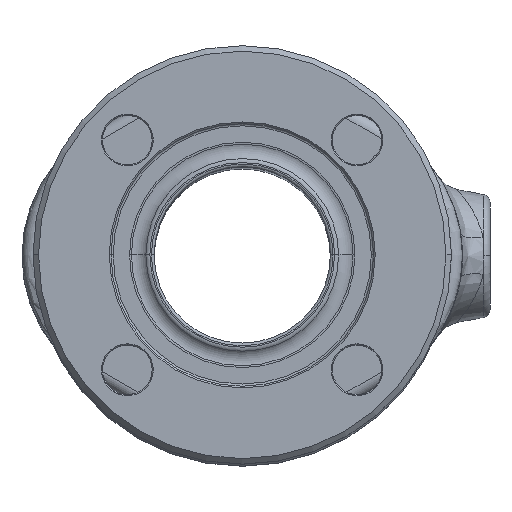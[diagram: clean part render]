
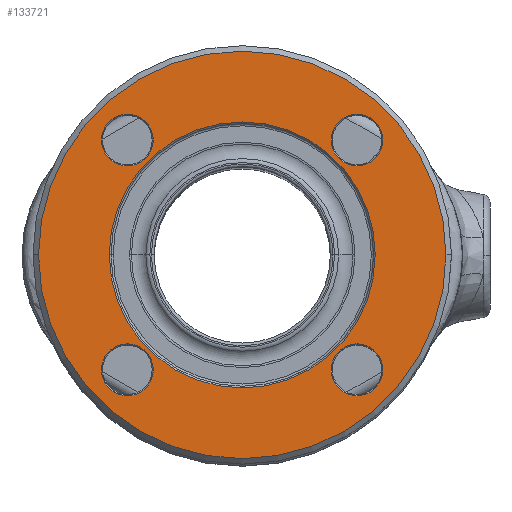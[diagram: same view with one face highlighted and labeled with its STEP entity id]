
A CAD part, top view. The second image highlights one B-rep face of the part: STEP entity #133721.
In plain terms, the highlighted planar face has unit normal (0, 0, 1).
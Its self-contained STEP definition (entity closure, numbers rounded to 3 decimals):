
#3784 = DIRECTION ( 'NONE',  ( -1., 0., 0. ) ) ;
#4360 = DIRECTION ( 'NONE',  ( -1., 0., 0. ) ) ;
#4615 = EDGE_CURVE ( 'NONE', #33406, #122370, #110155, .T. ) ;
#7628 = CIRCLE ( 'NONE', #45564, 4.7 ) ;
#9088 = PLANE ( 'NONE',  #68167 ) ;
#9933 = DIRECTION ( 'NONE',  ( -1., 0., 0. ) ) ;
#12340 = FACE_BOUND ( 'NONE', #105341, .T. ) ;
#12402 = AXIS2_PLACEMENT_3D ( 'NONE', #145805, #75135, #4360 ) ;
#12552 = VERTEX_POINT ( 'NONE', #41041 ) ;
#16437 = AXIS2_PLACEMENT_3D ( 'NONE', #120376, #49668, #132277 ) ;
#19275 = VERTEX_POINT ( 'NONE', #119020 ) ;
#19307 = VERTEX_POINT ( 'NONE', #85867 ) ;
#21177 = CARTESIAN_POINT ( 'NONE',  ( 20.86, 20.86, 113. ) ) ;
#26039 = CARTESIAN_POINT ( 'NONE',  ( -16.16, -20.86, 113. ) ) ;
#27621 = EDGE_LOOP ( 'NONE', ( #44890, #118750 ) ) ;
#27945 = EDGE_CURVE ( 'NONE', #152471, #46884, #141781, .T. ) ;
#33035 = DIRECTION ( 'NONE',  ( -1., 0., 0. ) ) ;
#33295 = DIRECTION ( 'NONE',  ( 0., 0., -1. ) ) ;
#33406 = VERTEX_POINT ( 'NONE', #126464 ) ;
#33785 = EDGE_CURVE ( 'NONE', #98992, #118346, #98003, .T. ) ;
#35644 = ORIENTED_EDGE ( 'NONE', *, *, #55051, .T. ) ;
#38944 = CARTESIAN_POINT ( 'NONE',  ( 0., 0., 113. ) ) ;
#40030 = FACE_BOUND ( 'NONE', #53167, .T. ) ;
#41041 = CARTESIAN_POINT ( 'NONE',  ( 16.16, -20.86, 113. ) ) ;
#43018 = EDGE_CURVE ( 'NONE', #122370, #33406, #53816, .T. ) ;
#43562 = CARTESIAN_POINT ( 'NONE',  ( 16.16, 20.86, 113. ) ) ;
#43706 = FACE_BOUND ( 'NONE', #107299, .T. ) ;
#44364 = CARTESIAN_POINT ( 'NONE',  ( 20.86, -20.86, 113. ) ) ;
#44890 = ORIENTED_EDGE ( 'NONE', *, *, #137772, .T. ) ;
#45564 = AXIS2_PLACEMENT_3D ( 'NONE', #21177, #103761, #33035 ) ;
#46884 = VERTEX_POINT ( 'NONE', #132072 ) ;
#49286 = VERTEX_POINT ( 'NONE', #100225 ) ;
#49668 = DIRECTION ( 'NONE',  ( 0., 0., -1. ) ) ;
#50138 = ORIENTED_EDGE ( 'NONE', *, *, #50817, .T. ) ;
#50169 = EDGE_CURVE ( 'NONE', #118346, #98992, #90919, .T. ) ;
#50817 = EDGE_CURVE ( 'NONE', #19307, #129043, #7628, .T. ) ;
#50877 = DIRECTION ( 'NONE',  ( -1., 0., 0. ) ) ;
#51307 = EDGE_CURVE ( 'NONE', #129043, #19307, #59257, .T. ) ;
#53167 = EDGE_LOOP ( 'NONE', ( #58392, #35644 ) ) ;
#53816 = CIRCLE ( 'NONE', #12402, 37. ) ;
#54001 = CARTESIAN_POINT ( 'NONE',  ( -20.86, -20.86, 113. ) ) ;
#55051 = EDGE_CURVE ( 'NONE', #125587, #19275, #65492, .T. ) ;
#55324 = CARTESIAN_POINT ( 'NONE',  ( 20.86, -20.86, 113. ) ) ;
#56302 = DIRECTION ( 'NONE',  ( -1., 0., 0. ) ) ;
#58228 = ORIENTED_EDGE ( 'NONE', *, *, #33785, .T. ) ;
#58392 = ORIENTED_EDGE ( 'NONE', *, *, #145959, .T. ) ;
#59257 = CIRCLE ( 'NONE', #145508, 4.7 ) ;
#59870 = DIRECTION ( 'NONE',  ( 0., 0., -1. ) ) ;
#60025 = CARTESIAN_POINT ( 'NONE',  ( 0., 0., 113. ) ) ;
#65492 = CIRCLE ( 'NONE', #82636, 24.15 ) ;
#65889 = DIRECTION ( 'NONE',  ( -1., 0., 0. ) ) ;
#66969 = CARTESIAN_POINT ( 'NONE',  ( -20.86, -20.86, 113. ) ) ;
#67216 = DIRECTION ( 'NONE',  ( -1., 0., 0. ) ) ;
#67806 = CARTESIAN_POINT ( 'NONE',  ( -37., 0., 113. ) ) ;
#68167 = AXIS2_PLACEMENT_3D ( 'NONE', #104008, #33295, #115959 ) ;
#71510 = FACE_OUTER_BOUND ( 'NONE', #105826, .T. ) ;
#71890 = DIRECTION ( 'NONE',  ( -1., 0., 0. ) ) ;
#72293 = CIRCLE ( 'NONE', #128071, 24.15 ) ;
#73229 = ORIENTED_EDGE ( 'NONE', *, *, #43018, .F. ) ;
#73635 = CIRCLE ( 'NONE', #88434, 4.7 ) ;
#74544 = DIRECTION ( 'NONE',  ( 0., 0., -1. ) ) ;
#75135 = DIRECTION ( 'NONE',  ( 0., 0., -1. ) ) ;
#75187 = FACE_BOUND ( 'NONE', #87444, .T. ) ;
#78822 = DIRECTION ( 'NONE',  ( -1., 0., 0. ) ) ;
#80451 = AXIS2_PLACEMENT_3D ( 'NONE', #66969, #149473, #78822 ) ;
#80651 = DIRECTION ( 'NONE',  ( 0., 0., -1. ) ) ;
#82636 = AXIS2_PLACEMENT_3D ( 'NONE', #130559, #59870, #142377 ) ;
#85048 = CARTESIAN_POINT ( 'NONE',  ( -25.56, 20.86, 113. ) ) ;
#85867 = CARTESIAN_POINT ( 'NONE',  ( 25.56, 20.86, 113. ) ) ;
#85996 = AXIS2_PLACEMENT_3D ( 'NONE', #54001, #136553, #65889 ) ;
#87444 = EDGE_LOOP ( 'NONE', ( #146272, #123649 ) ) ;
#88197 = EDGE_CURVE ( 'NONE', #12552, #49286, #149734, .T. ) ;
#88434 = AXIS2_PLACEMENT_3D ( 'NONE', #44364, #126999, #56302 ) ;
#90919 = CIRCLE ( 'NONE', #85996, 4.7 ) ;
#98003 = CIRCLE ( 'NONE', #80451, 4.7 ) ;
#98717 = AXIS2_PLACEMENT_3D ( 'NONE', #38944, #121585, #50877 ) ;
#98992 = VERTEX_POINT ( 'NONE', #122333 ) ;
#100225 = CARTESIAN_POINT ( 'NONE',  ( 25.56, -20.86, 113. ) ) ;
#102278 = ORIENTED_EDGE ( 'NONE', *, *, #51307, .T. ) ;
#102794 = FACE_BOUND ( 'NONE', #27621, .T. ) ;
#103761 = DIRECTION ( 'NONE',  ( 0., 0., -1. ) ) ;
#104008 = CARTESIAN_POINT ( 'NONE',  ( 0., 37., 113. ) ) ;
#105341 = EDGE_LOOP ( 'NONE', ( #114327, #58228 ) ) ;
#105826 = EDGE_LOOP ( 'NONE', ( #73229, #125950 ) ) ;
#106462 = AXIS2_PLACEMENT_3D ( 'NONE', #151357, #80651, #9933 ) ;
#107299 = EDGE_LOOP ( 'NONE', ( #50138, #102278 ) ) ;
#110155 = CIRCLE ( 'NONE', #98717, 37. ) ;
#114327 = ORIENTED_EDGE ( 'NONE', *, *, #50169, .T. ) ;
#115959 = DIRECTION ( 'NONE',  ( -1., 0., 0. ) ) ;
#118346 = VERTEX_POINT ( 'NONE', #26039 ) ;
#118750 = ORIENTED_EDGE ( 'NONE', *, *, #88197, .T. ) ;
#119020 = CARTESIAN_POINT ( 'NONE',  ( 24.15, 0., 113. ) ) ;
#120376 = CARTESIAN_POINT ( 'NONE',  ( -20.86, 20.86, 113. ) ) ;
#121585 = DIRECTION ( 'NONE',  ( 0., 0., -1. ) ) ;
#122333 = CARTESIAN_POINT ( 'NONE',  ( -25.56, -20.86, 113. ) ) ;
#122370 = VERTEX_POINT ( 'NONE', #67806 ) ;
#122485 = EDGE_CURVE ( 'NONE', #46884, #152471, #145800, .T. ) ;
#123649 = ORIENTED_EDGE ( 'NONE', *, *, #27945, .T. ) ;
#125587 = VERTEX_POINT ( 'NONE', #141811 ) ;
#125950 = ORIENTED_EDGE ( 'NONE', *, *, #4615, .F. ) ;
#126464 = CARTESIAN_POINT ( 'NONE',  ( 37., 0., 113. ) ) ;
#126999 = DIRECTION ( 'NONE',  ( 0., 0., -1. ) ) ;
#128071 = AXIS2_PLACEMENT_3D ( 'NONE', #60025, #142531, #71890 ) ;
#129043 = VERTEX_POINT ( 'NONE', #43562 ) ;
#130559 = CARTESIAN_POINT ( 'NONE',  ( 0., 0., 113. ) ) ;
#132072 = CARTESIAN_POINT ( 'NONE',  ( -16.16, 20.86, 113. ) ) ;
#132277 = DIRECTION ( 'NONE',  ( -1., 0., 0. ) ) ;
#133721 = ADVANCED_FACE ( 'NONE', ( #12340, #102794, #43706, #75187, #71510, #40030 ), #9088, .F. ) ;
#136553 = DIRECTION ( 'NONE',  ( 0., 0., -1. ) ) ;
#137772 = EDGE_CURVE ( 'NONE', #49286, #12552, #73635, .T. ) ;
#137879 = DIRECTION ( 'NONE',  ( 0., 0., -1. ) ) ;
#141427 = AXIS2_PLACEMENT_3D ( 'NONE', #55324, #137879, #67216 ) ;
#141781 = CIRCLE ( 'NONE', #16437, 4.7 ) ;
#141811 = CARTESIAN_POINT ( 'NONE',  ( -24.15, 0., 113. ) ) ;
#142377 = DIRECTION ( 'NONE',  ( -1., 0., 0. ) ) ;
#142531 = DIRECTION ( 'NONE',  ( 0., 0., -1. ) ) ;
#145210 = CARTESIAN_POINT ( 'NONE',  ( 20.86, 20.86, 113. ) ) ;
#145508 = AXIS2_PLACEMENT_3D ( 'NONE', #145210, #74544, #3784 ) ;
#145800 = CIRCLE ( 'NONE', #106462, 4.7 ) ;
#145805 = CARTESIAN_POINT ( 'NONE',  ( 0., 0., 113. ) ) ;
#145959 = EDGE_CURVE ( 'NONE', #19275, #125587, #72293, .T. ) ;
#146272 = ORIENTED_EDGE ( 'NONE', *, *, #122485, .T. ) ;
#149473 = DIRECTION ( 'NONE',  ( 0., 0., -1. ) ) ;
#149734 = CIRCLE ( 'NONE', #141427, 4.7 ) ;
#151357 = CARTESIAN_POINT ( 'NONE',  ( -20.86, 20.86, 113. ) ) ;
#152471 = VERTEX_POINT ( 'NONE', #85048 ) ;
